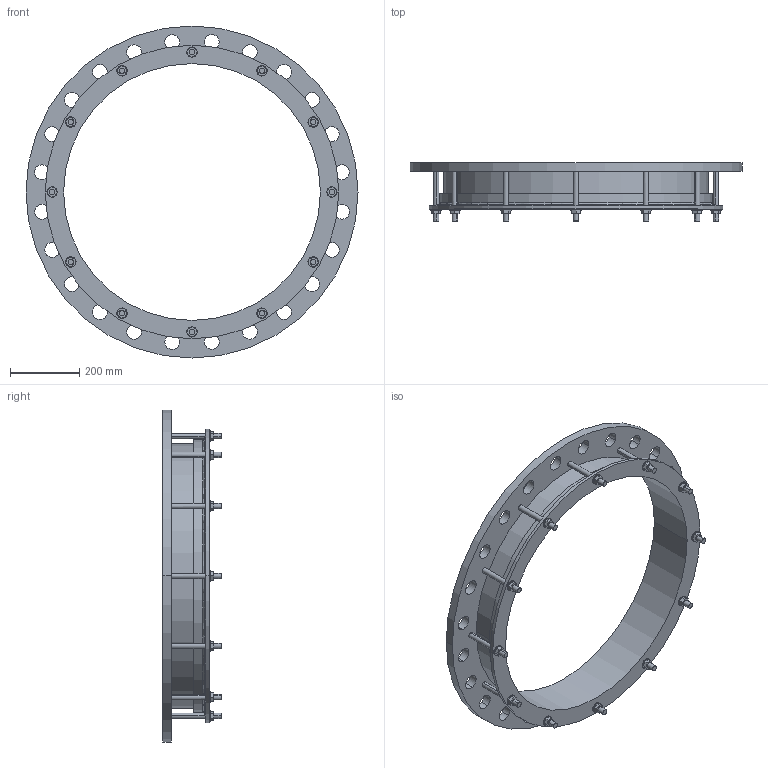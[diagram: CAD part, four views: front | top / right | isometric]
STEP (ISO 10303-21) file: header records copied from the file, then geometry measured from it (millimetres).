
FILE_DESCRIPTION((''),'2;1');
FILE_NAME('738X700PN25','2019-04-04T',('mfairey'),('Glynwed Pipe Systems'),'CREO PARAMETRIC BY PTC INC, 2016130','CREO PARAMETRIC BY PTC INC, 2016130','');
FILE_SCHEMA(('CONFIG_CONTROL_DESIGN'));
Length unit declared in the file: millimetre
Products named in the file (1): 738X700PN25
Bounding box: 960 x 169 x 960 mm (x, y, z)
Volume: 11785396.4 mm3; surface area: 1528002.3 mm2
Topology: 1 solids, 1 shells, 246 faces, 650 edges, 432 vertices
Faces by surface type: cylinder 128, plane 112, cone 4, torus 2
Entity records: 8622 total; most frequent: CARTESIAN_POINT 2176, DIRECTION 1340, ORIENTED_EDGE 1300, EDGE_CURVE 650, AXIS2_PLACEMENT_3D 496, VERTEX_POINT 432, VECTOR 348, LINE 348
